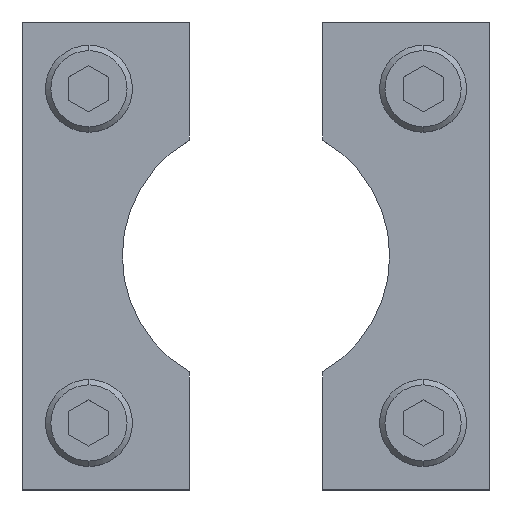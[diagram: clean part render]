
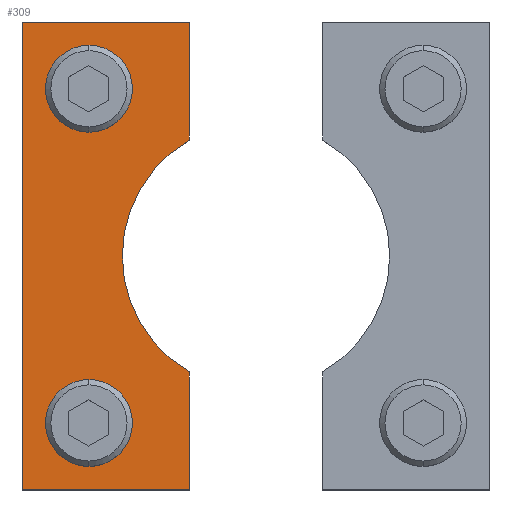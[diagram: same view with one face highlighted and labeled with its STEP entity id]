
A CAD part, top view. The second image highlights one B-rep face of the part: STEP entity #309.
In plain terms, the highlighted planar face has unit normal (0, 0, 1).
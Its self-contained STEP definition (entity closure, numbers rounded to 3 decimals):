
#175=FACE_BOUND('',#645,.T.);
#176=FACE_BOUND('',#646,.T.);
#177=FACE_BOUND('',#647,.T.);
#203=CIRCLE('',#2306,20.);
#204=CIRCLE('',#2307,4.5);
#205=CIRCLE('',#2308,4.5);
#206=CIRCLE('',#2309,4.5);
#207=CIRCLE('',#2310,4.5);
#309=ADVANCED_FACE('',(#175,#176,#177),#445,.T.);
#445=PLANE('',#2311);
#645=EDGE_LOOP('',(#804,#805,#806,#807,#808,#809,#810,#811));
#646=EDGE_LOOP('',(#812,#813));
#647=EDGE_LOOP('',(#814,#815));
#804=ORIENTED_EDGE('',*,*,#1607,.T.);
#805=ORIENTED_EDGE('',*,*,#1608,.T.);
#806=ORIENTED_EDGE('',*,*,#1609,.T.);
#807=ORIENTED_EDGE('',*,*,#1600,.T.);
#808=ORIENTED_EDGE('',*,*,#1605,.T.);
#809=ORIENTED_EDGE('',*,*,#1610,.T.);
#810=ORIENTED_EDGE('',*,*,#1611,.T.);
#811=ORIENTED_EDGE('',*,*,#1612,.T.);
#812=ORIENTED_EDGE('',*,*,#1613,.T.);
#813=ORIENTED_EDGE('',*,*,#1614,.T.);
#814=ORIENTED_EDGE('',*,*,#1615,.T.);
#815=ORIENTED_EDGE('',*,*,#1616,.T.);
#1404=VERTEX_POINT('',#3229);
#1405=VERTEX_POINT('',#3231);
#1409=VERTEX_POINT('',#3240);
#1410=VERTEX_POINT('',#3245);
#1411=VERTEX_POINT('',#3246);
#1412=VERTEX_POINT('',#3248);
#1413=VERTEX_POINT('',#3251);
#1414=VERTEX_POINT('',#3253);
#1415=VERTEX_POINT('',#3256);
#1416=VERTEX_POINT('',#3257);
#1417=VERTEX_POINT('',#3260);
#1418=VERTEX_POINT('',#3261);
#1600=EDGE_CURVE('',#1405,#1404,#1904,.T.);
#1605=EDGE_CURVE('',#1404,#1409,#1909,.T.);
#1607=EDGE_CURVE('',#1410,#1411,#1911,.T.);
#1608=EDGE_CURVE('',#1411,#1412,#203,.T.);
#1609=EDGE_CURVE('',#1412,#1405,#1912,.T.);
#1610=EDGE_CURVE('',#1409,#1413,#1913,.T.);
#1611=EDGE_CURVE('',#1413,#1414,#1914,.T.);
#1612=EDGE_CURVE('',#1414,#1410,#1915,.T.);
#1613=EDGE_CURVE('',#1415,#1416,#204,.T.);
#1614=EDGE_CURVE('',#1416,#1415,#205,.T.);
#1615=EDGE_CURVE('',#1417,#1418,#206,.T.);
#1616=EDGE_CURVE('',#1418,#1417,#207,.T.);
#1904=LINE('',#3230,#2104);
#1909=LINE('',#3241,#2109);
#1911=LINE('',#3244,#2111);
#1912=LINE('',#3249,#2112);
#1913=LINE('',#3250,#2113);
#1914=LINE('',#3252,#2114);
#1915=LINE('',#3254,#2115);
#2104=VECTOR('',#2547,1.);
#2109=VECTOR('',#2554,1.);
#2111=VECTOR('',#2558,1.);
#2112=VECTOR('',#2561,1.);
#2113=VECTOR('',#2562,1.);
#2114=VECTOR('',#2563,1.);
#2115=VECTOR('',#2564,1.);
#2306=AXIS2_PLACEMENT_3D('',#3247,#2559,#2560);
#2307=AXIS2_PLACEMENT_3D('',#3255,#2565,#2566);
#2308=AXIS2_PLACEMENT_3D('',#3258,#2567,#2568);
#2309=AXIS2_PLACEMENT_3D('',#3259,#2569,#2570);
#2310=AXIS2_PLACEMENT_3D('',#3262,#2571,#2572);
#2311=AXIS2_PLACEMENT_3D('',#3263,#2573,#2574);
#2547=DIRECTION('',(0.,1.,0.));
#2554=DIRECTION('',(-1.,0.,0.));
#2558=DIRECTION('',(0.,1.,0.));
#2559=DIRECTION('',(0.,0.,-1.));
#2560=DIRECTION('',(1.,0.,0.));
#2561=DIRECTION('',(0.,1.,0.));
#2562=DIRECTION('',(0.,-1.,0.));
#2563=DIRECTION('',(1.,0.,0.));
#2564=DIRECTION('',(0.,1.,0.));
#2565=DIRECTION('',(0.,0.,-1.));
#2566=DIRECTION('',(-1.,0.,0.));
#2567=DIRECTION('',(0.,0.,-1.));
#2568=DIRECTION('',(1.,0.,0.));
#2569=DIRECTION('',(0.,0.,-1.));
#2570=DIRECTION('',(-1.,0.,0.));
#2571=DIRECTION('',(0.,0.,-1.));
#2572=DIRECTION('',(1.,0.,0.));
#2573=DIRECTION('',(0.,0.,1.));
#2574=DIRECTION('',(0.,1.,0.));
#3229=CARTESIAN_POINT('',(-10.,35.,6.));
#3230=CARTESIAN_POINT('',(-10.,35.,6.));
#3231=CARTESIAN_POINT('',(-10.,20.156,6.));
#3240=CARTESIAN_POINT('',(-35.,35.,6.));
#3241=CARTESIAN_POINT('',(-10.,35.,6.));
#3244=CARTESIAN_POINT('',(-10.,-17.321,6.));
#3245=CARTESIAN_POINT('',(-10.,-20.156,6.));
#3246=CARTESIAN_POINT('',(-10.,-17.321,6.));
#3247=CARTESIAN_POINT('',(0.,0.,6.));
#3248=CARTESIAN_POINT('',(-10.,17.321,6.));
#3249=CARTESIAN_POINT('',(-10.,20.156,6.));
#3250=CARTESIAN_POINT('',(-35.,35.,6.));
#3251=CARTESIAN_POINT('',(-35.,-35.,6.));
#3252=CARTESIAN_POINT('',(-10.,-35.,6.));
#3253=CARTESIAN_POINT('',(-10.,-35.,6.));
#3254=CARTESIAN_POINT('',(-10.,-20.156,6.));
#3255=CARTESIAN_POINT('',(-24.992,-25.,6.));
#3256=CARTESIAN_POINT('',(-24.992,-20.5,6.));
#3257=CARTESIAN_POINT('',(-24.992,-29.5,6.));
#3258=CARTESIAN_POINT('',(-24.992,-25.,6.));
#3259=CARTESIAN_POINT('',(-24.992,25.,6.));
#3260=CARTESIAN_POINT('',(-24.992,29.5,6.));
#3261=CARTESIAN_POINT('',(-24.992,20.5,6.));
#3262=CARTESIAN_POINT('',(-24.992,25.,6.));
#3263=CARTESIAN_POINT('',(-10.,-20.156,6.));
